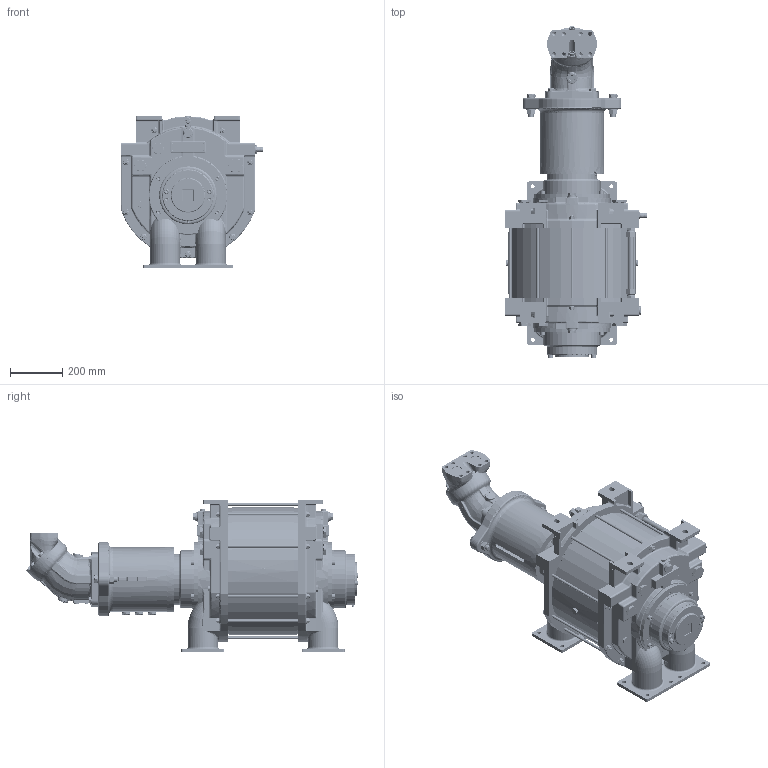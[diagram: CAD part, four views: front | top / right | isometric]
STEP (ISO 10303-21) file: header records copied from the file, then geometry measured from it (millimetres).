
FILE_DESCRIPTION(/* description */ (''),/* implementation_level */ '2;1');
FILE_NAME(/* name */ '1700156.stp',/* time_stamp */ '2025-05-09T11:57:14+02:00',/* author */ ('JJ'),/* organization */ (''),/* preprocessor_version */ 'ST-DEVELOPER v20',/* originating_system */ 'Autodesk Inventor 2025',/* authorisation */ '0 mm^3');
FILE_SCHEMA (('AUTOMOTIVE_DESIGN { 1 0 10303 214 3 1 1 }'));
Products named in the file (21): 1700156; 1634621; 915000050; 948300058; 1634768; 910000423; 910000508; 910000422; 910300316; 922200075; 1634826; 1634811; 922000266; 944000089; 910100022; DIN 933 - M16  x 50; 932400048; 932300028; 932300060; 932400049; 1700054 Ready for adaptor
Assembly tree (37 placements, depth 3):
  1700156
    1634621
    915000050
    948300058
    1634768
    910000423  x4
    910000508  x2
    910000422  x2
    910300316  x4
    922200075
    1634826  x3
      1634811
      922000266
    944000089
    910100022  x4
    DIN 933 - M16  x 50  x4
    932400048  x2
    932300028
    932300060
    932400049
    1700054 Ready for adaptor
Bounding box: 545.5 x 1275.77 x 585 mm (x, y, z)
Volume: 117201917 mm3; surface area: 3784196 mm2
Topology: 39 solids, 40 shells, 4954 faces, 12270 edges, 7680 vertices
Faces by surface type: plane 1796, bspline 1127, cylinder 1047, cone 488, torus 392, sphere 104
Full cylindrical faces by diameter (mm): 3 x2, 3.3 x8, 4 x4, 6 x3, 6.5 x1, 6.65 x1, 8 x3, 10 x1, 10.106 x10, 10.75 x10, 11 x1, 12 x25, 13 x6, 13.835 x8, 13.84 x4, 14 x1, 14.224 x1, 14.917 x4, 15 x16, 16 x4, 17 x5, 17.294 x3, 18 x22, 19 x1, 19.847 x1, 19.984 x1, 20 x9, 20.376 x3, 21 x11, 21.8 x6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
Entity records: 278598 total; most frequent: CARTESIAN_POINT 178939, ORIENTED_EDGE 21128, DIRECTION 18232, EDGE_CURVE 10564, AXIS2_PLACEMENT_3D 7084, VERTEX_POINT 6646, EDGE_LOOP 4798, FACE_OUTER_BOUND 4300
